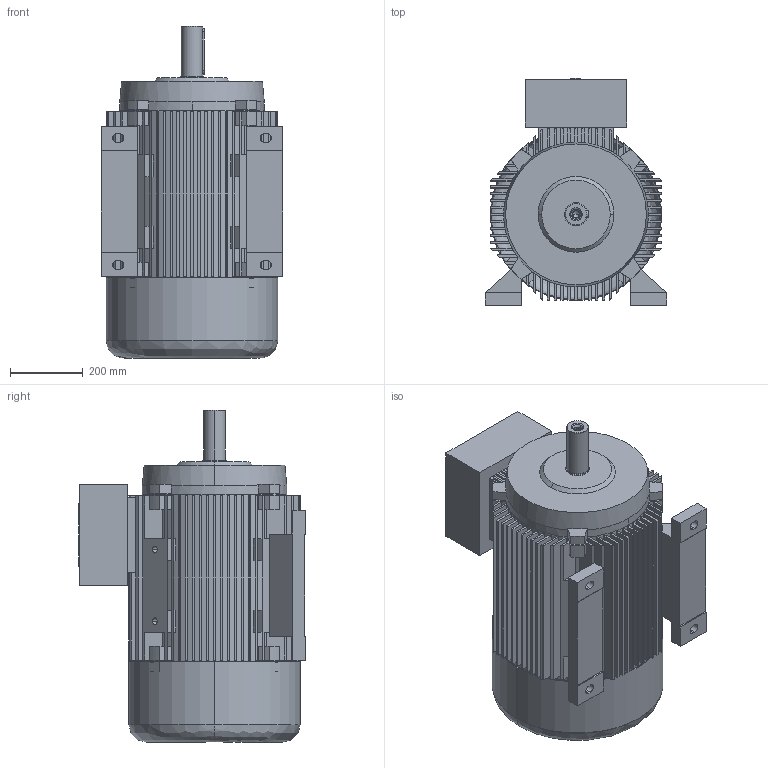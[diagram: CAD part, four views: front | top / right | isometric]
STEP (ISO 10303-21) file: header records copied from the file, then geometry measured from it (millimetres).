
FILE_DESCRIPTION (( 'STEP AP203' ), '1' );
FILE_NAME ('20.18374_A 7AZ 250M - 2 B3 STANDK.STEP', '2018-04-03T07:30:39', ( '' ), ( '' ), 'SwSTEP 2.0', 'SolidWorks 2017', '' );
FILE_SCHEMA (( 'CONFIG_CONTROL_DESIGN' ));
Length unit declared in the file: millimetre
Products named in the file (1): 20.18374_A  7AZ 250M - 2 B3 STANDK
Bounding box: 500 x 624 x 913 mm (x, y, z)
Volume: 47093985.3 mm3; surface area: 6266151.6 mm2
Topology: 16 solids, 16 shells, 836 faces, 2229 edges, 1463 vertices
Faces by surface type: plane 667, cylinder 118, cone 38, bspline 13
Entity records: 26605 total; most frequent: CARTESIAN_POINT 5428, ORIENTED_EDGE 4422, DIRECTION 4307, EDGE_CURVE 2211, LINE 1679, VECTOR 1679, VERTEX_POINT 1463, AXIS2_PLACEMENT_3D 1314
